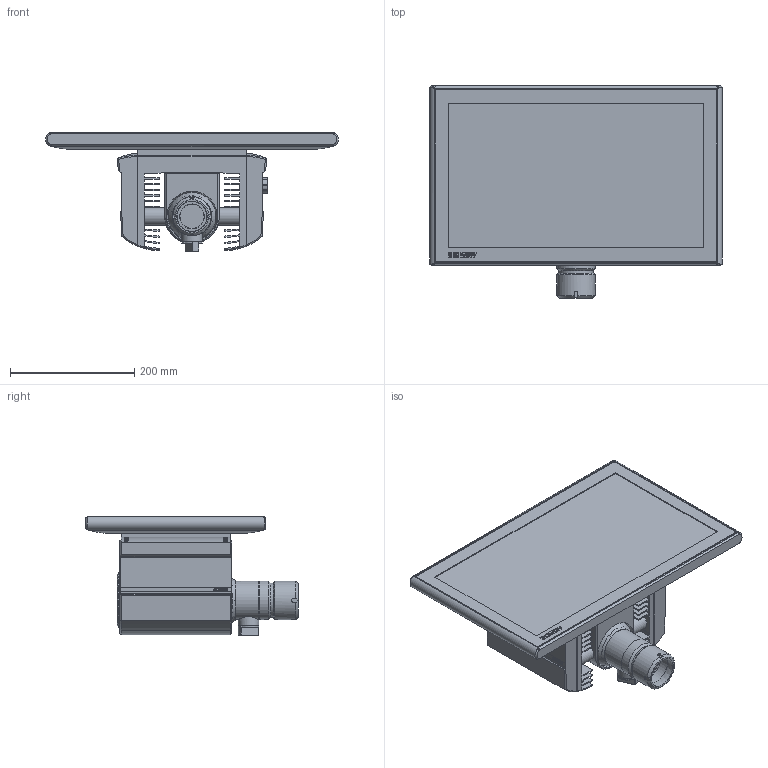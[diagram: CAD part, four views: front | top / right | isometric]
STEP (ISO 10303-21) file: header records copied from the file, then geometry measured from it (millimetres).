
FILE_DESCRIPTION(/* description */ (''),/* implementation_level */ '2;1');
FILE_NAME(/* name */ 'X:\0-inventor\0-3d-Teile\PC-Compo\solids\CP3xxx\0-Ausgabe\CP3218-M184-E281.stp',/* time_stamp */ '2015-11-02T11:01:01+01:00',/* author */ ('christiankreuzer'),/* organization */ ('Design-AG'),/* preprocessor_version */ 'ST-DEVELOPER v16.1',/* originating_system */ 'Autodesk Inventor 2016',/* authorisation */ '');
FILE_SCHEMA (('AUTOMOTIVE_DESIGN { 1 0 10303 214 3 1 1 }'));
Products named in the file (3): CP3218-M184-E281-Vorlage; CP32xx-Haube; CP3218-M184-E281-Vorlage-Step
Assembly tree (2 placements, depth 2):
  CP3218-M184-E281-Vorlage-Step
    CP3218-M184-E281-Vorlage
    CP32xx-Haube
Bounding box: 471.77 x 341.9 x 191.56 mm (x, y, z)
Volume: 7001392.9 mm3; surface area: 913070 mm2
Topology: 6 solids, 9 shells, 2357 faces, 6404 edges, 4194 vertices
Faces by surface type: plane 1378, cylinder 667, cone 131, bspline 119, torus 47, sphere 15
Full cylindrical faces by diameter (mm): 1.03 x12, 1.8 x1, 1.9 x1, 4 x1, 4.2 x1, 4.5 x2, 4.917 x1, 5.4 x1, 5.7 x10, 6 x4, 7.9 x1, 8 x1, 8.5 x4, 8.8 x4, 10 x2, 16 x1, 18.548 x1, 20 x2, 20.4 x1, 20.917 x1, 21 x1, 21.5 x1, 21.516 x2, 21.7 x1, 22 x1, 22.9 x1, 23 x1, 28 x3, 33 x1, 39 x1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
Entity records: 79421 total; most frequent: CARTESIAN_POINT 19399, ORIENTED_EDGE 12282, DIRECTION 11785, EDGE_CURVE 6141, VERTEX_POINT 4092, LINE 4067, VECTOR 4067, AXIS2_PLACEMENT_3D 3859
